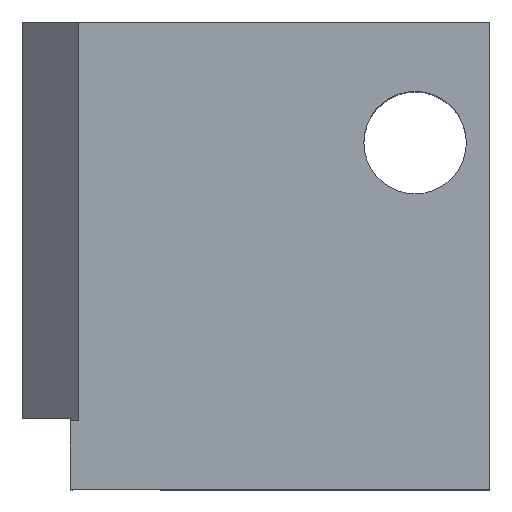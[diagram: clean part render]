
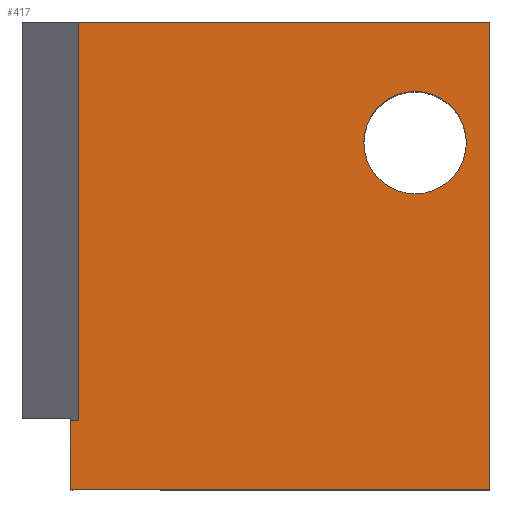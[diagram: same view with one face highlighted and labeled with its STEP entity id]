
A CAD part, top view. The second image highlights one B-rep face of the part: STEP entity #417.
In plain terms, the highlighted planar face has unit normal (0, 0, 1).
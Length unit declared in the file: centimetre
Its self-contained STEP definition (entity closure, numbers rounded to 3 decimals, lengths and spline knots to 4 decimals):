
#27 = CARTESIAN_POINT ( 'NONE',  ( 0., 0., 1000. ) ) ;
#75 = ORIENTED_EDGE ( 'NONE', *, *, #747, .T. ) ;
#80 = VERTEX_POINT ( 'NONE', #209 ) ;
#92 = VECTOR ( 'NONE', #911, 100. ) ;
#102 = VECTOR ( 'NONE', #135, 100. ) ;
#113 = ORIENTED_EDGE ( 'NONE', *, *, #1167, .T. ) ;
#135 = DIRECTION ( 'NONE',  ( 0., 1., 0. ) ) ;
#138 = ORIENTED_EDGE ( 'NONE', *, *, #155, .F. ) ;
#139 = LINE ( 'NONE', #524, #92 ) ;
#155 = EDGE_CURVE ( 'NONE', #347, #1074, #239, .T. ) ;
#186 = CARTESIAN_POINT ( 'NONE',  ( 0., 0., 1000. ) ) ;
#191 = LINE ( 'NONE', #382, #377 ) ;
#194 = ORIENTED_EDGE ( 'NONE', *, *, #612, .F. ) ;
#209 = CARTESIAN_POINT ( 'NONE',  ( 102.8922, 147.475, 1000. ) ) ;
#226 = CARTESIAN_POINT ( 'NONE',  ( 120.8249, 1000., 1000. ) ) ;
#228 = VERTEX_POINT ( 'NONE', #1020 ) ;
#238 = DIRECTION ( 'NONE',  ( 0., 0., -1. ) ) ;
#239 = LINE ( 'NONE', #1091, #102 ) ;
#282 = PLANE ( 'NONE',  #961 ) ;
#341 = VERTEX_POINT ( 'NONE', #674 ) ;
#347 = VERTEX_POINT ( 'NONE', #670 ) ;
#368 = DIRECTION ( 'NONE',  ( 1., 0., 0. ) ) ;
#377 = VECTOR ( 'NONE', #368, 100. ) ;
#379 = EDGE_CURVE ( 'NONE', #80, #347, #191, .T. ) ;
#382 = CARTESIAN_POINT ( 'NONE',  ( 120.8249, 147.475, 1000. ) ) ;
#388 = CARTESIAN_POINT ( 'NONE',  ( 840.2286, 742.0619, 1000. ) ) ;
#397 = LINE ( 'NONE', #27, #799 ) ;
#409 = CIRCLE ( 'NONE', #741, 109.5849 ) ;
#417 = ADVANCED_FACE ( 'NONE', ( #569, #1153 ), #282, .T. ) ;
#418 = LINE ( 'NONE', #811, #477 ) ;
#433 = CIRCLE ( 'NONE', #1000, 109.5849 ) ;
#453 = EDGE_LOOP ( 'NONE', ( #138, #1090, #194, #731, #113, #1024 ) ) ;
#477 = VECTOR ( 'NONE', #1197, 100. ) ;
#524 = CARTESIAN_POINT ( 'NONE',  ( 1000., 1000., 1000. ) ) ;
#562 = VERTEX_POINT ( 'NONE', #644 ) ;
#569 = FACE_BOUND ( 'NONE', #725, .T. ) ;
#612 = EDGE_CURVE ( 'NONE', #909, #80, #668, .T. ) ;
#640 = EDGE_CURVE ( 'NONE', #1030, #341, #409, .T. ) ;
#644 = CARTESIAN_POINT ( 'NONE',  ( 1000., 1000., 1000. ) ) ;
#668 = LINE ( 'NONE', #721, #846 ) ;
#670 = CARTESIAN_POINT ( 'NONE',  ( 120.8249, 147.475, 1000. ) ) ;
#674 = CARTESIAN_POINT ( 'NONE',  ( 730.6438, 742.0619, 1000. ) ) ;
#705 = CARTESIAN_POINT ( 'NONE',  ( 949.8135, 742.0619, 1000. ) ) ;
#721 = CARTESIAN_POINT ( 'NONE',  ( 102.8922, 0., 1000. ) ) ;
#723 = DIRECTION ( 'NONE',  ( 1., 0., 0. ) ) ;
#725 = EDGE_LOOP ( 'NONE', ( #75, #1245 ) ) ;
#731 = ORIENTED_EDGE ( 'NONE', *, *, #910, .T. ) ;
#741 = AXIS2_PLACEMENT_3D ( 'NONE', #823, #238, #950 ) ;
#747 = EDGE_CURVE ( 'NONE', #341, #1030, #433, .T. ) ;
#799 = VECTOR ( 'NONE', #723, 100. ) ;
#811 = CARTESIAN_POINT ( 'NONE',  ( 0., 1000., 1000. ) ) ;
#823 = CARTESIAN_POINT ( 'NONE',  ( 840.2286, 742.0619, 1000. ) ) ;
#836 = DIRECTION ( 'NONE',  ( 1., 0., 0. ) ) ;
#846 = VECTOR ( 'NONE', #1018, 100. ) ;
#909 = VERTEX_POINT ( 'NONE', #1086 ) ;
#910 = EDGE_CURVE ( 'NONE', #909, #228, #397, .T. ) ;
#911 = DIRECTION ( 'NONE',  ( 0., 1., 0. ) ) ;
#913 = DIRECTION ( 'NONE',  ( 0., 0., 1. ) ) ;
#950 = DIRECTION ( 'NONE',  ( -1., 0., 0. ) ) ;
#961 = AXIS2_PLACEMENT_3D ( 'NONE', #186, #913, #836 ) ;
#1000 = AXIS2_PLACEMENT_3D ( 'NONE', #388, #1054, #1071 ) ;
#1018 = DIRECTION ( 'NONE',  ( 0., 1., 0. ) ) ;
#1020 = CARTESIAN_POINT ( 'NONE',  ( 1000., 0., 1000. ) ) ;
#1024 = ORIENTED_EDGE ( 'NONE', *, *, #1161, .T. ) ;
#1030 = VERTEX_POINT ( 'NONE', #705 ) ;
#1054 = DIRECTION ( 'NONE',  ( 0., 0., -1. ) ) ;
#1071 = DIRECTION ( 'NONE',  ( -1., 0., 0. ) ) ;
#1074 = VERTEX_POINT ( 'NONE', #226 ) ;
#1086 = CARTESIAN_POINT ( 'NONE',  ( 102.8922, 0., 1000. ) ) ;
#1090 = ORIENTED_EDGE ( 'NONE', *, *, #379, .F. ) ;
#1091 = CARTESIAN_POINT ( 'NONE',  ( 120.8249, 147.475, 1000. ) ) ;
#1153 = FACE_OUTER_BOUND ( 'NONE', #453, .T. ) ;
#1161 = EDGE_CURVE ( 'NONE', #562, #1074, #418, .T. ) ;
#1167 = EDGE_CURVE ( 'NONE', #228, #562, #139, .T. ) ;
#1197 = DIRECTION ( 'NONE',  ( -1., 0., 0. ) ) ;
#1245 = ORIENTED_EDGE ( 'NONE', *, *, #640, .T. ) ;
